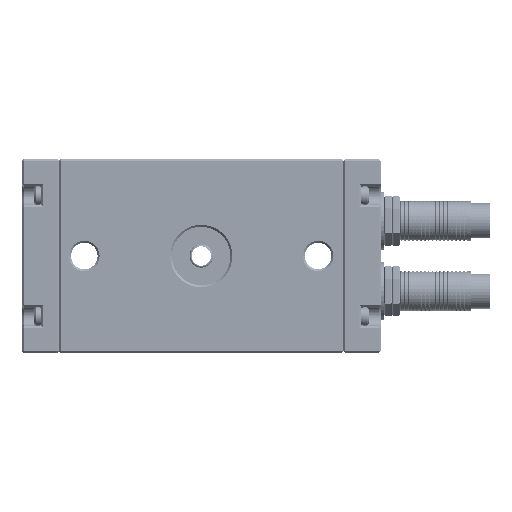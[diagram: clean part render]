
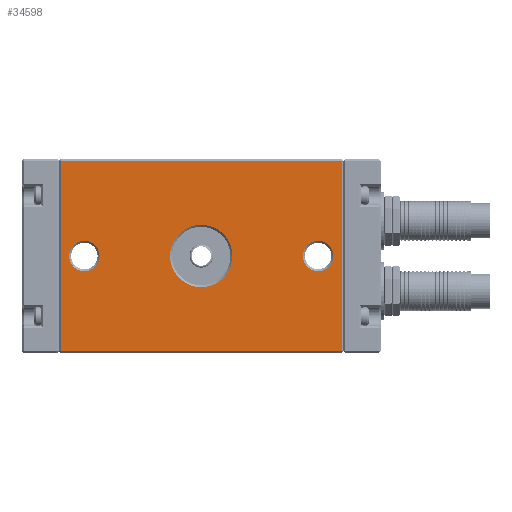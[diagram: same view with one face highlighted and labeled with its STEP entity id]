
A CAD part, front view. The second image highlights one B-rep face of the part: STEP entity #34598.
In plain terms, the highlighted planar face has unit normal (0, -1, 0) as drawn and (0, 0, -1) by its records, which use the part's own axes.
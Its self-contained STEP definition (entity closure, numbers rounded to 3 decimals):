
#31594 = EDGE_CURVE ( 'NONE', #31731, #31615, #73622, .T. ) ;
#31615 = VERTEX_POINT ( 'NONE', #73671 ) ;
#31622 = EDGE_CURVE ( 'NONE', #31640, #31641, #73670, .T. ) ;
#31640 = VERTEX_POINT ( 'NONE', #73703 ) ;
#31641 = VERTEX_POINT ( 'NONE', #73698 ) ;
#31711 = VERTEX_POINT ( 'NONE', #73815 ) ;
#31721 = EDGE_CURVE ( 'NONE', #31711, #31729, #73806, .T. ) ;
#31729 = VERTEX_POINT ( 'NONE', #73804 ) ;
#31731 = VERTEX_POINT ( 'NONE', #73793 ) ;
#34452 = ORIENTED_EDGE ( 'NONE', *, *, #34599, .T. ) ;
#34457 = ORIENTED_EDGE ( 'NONE', *, *, #31622, .T. ) ;
#34459 = EDGE_CURVE ( 'NONE', #34461, #34462, #78056, .T. ) ;
#34461 = VERTEX_POINT ( 'NONE', #78050 ) ;
#34462 = VERTEX_POINT ( 'NONE', #78049 ) ;
#34470 = EDGE_LOOP ( 'NONE', ( #34457, #34452 ) ) ;
#34475 = EDGE_CURVE ( 'NONE', #31729, #31711, #78045, .T. ) ;
#34476 = EDGE_LOOP ( 'NONE', ( #34607, #34602 ) ) ;
#34491 = VERTEX_POINT ( 'NONE', #78075 ) ;
#34494 = ORIENTED_EDGE ( 'NONE', *, *, #34475, .T. ) ;
#34518 = EDGE_LOOP ( 'NONE', ( #34600, #34494 ) ) ;
#34574 = EDGE_LOOP ( 'NONE', ( #34577, #34580, #34588, #34591 ) ) ;
#34577 = ORIENTED_EDGE ( 'NONE', *, *, #34459, .T. ) ;
#34580 = ORIENTED_EDGE ( 'NONE', *, *, #34581, .T. ) ;
#34581 = EDGE_CURVE ( 'NONE', #34462, #34491, #78204, .T. ) ;
#34586 = EDGE_CURVE ( 'NONE', #34491, #34609, #78200, .T. ) ;
#34588 = ORIENTED_EDGE ( 'NONE', *, *, #34586, .T. ) ;
#34590 = EDGE_CURVE ( 'NONE', #34609, #34461, #78199, .T. ) ;
#34591 = ORIENTED_EDGE ( 'NONE', *, *, #34590, .T. ) ;
#34598 = ADVANCED_FACE ( 'NONE', ( #78194, #78189, #78188, #78208 ), #78195, .T. ) ;
#34599 = EDGE_CURVE ( 'NONE', #31641, #31640, #78238, .T. ) ;
#34600 = ORIENTED_EDGE ( 'NONE', *, *, #31721, .T. ) ;
#34602 = ORIENTED_EDGE ( 'NONE', *, *, #34603, .T. ) ;
#34603 = EDGE_CURVE ( 'NONE', #31615, #31731, #78183, .T. ) ;
#34607 = ORIENTED_EDGE ( 'NONE', *, *, #31594, .T. ) ;
#34609 = VERTEX_POINT ( 'NONE', #78180 ) ;
#72598 = DIRECTION ( 'NONE',  ( 0., 0., 1. ) ) ;
#72617 = DIRECTION ( 'NONE',  ( -1., 0., 0. ) ) ;
#73622 = CIRCLE ( 'NONE', #73625, 3.9 ) ;
#73625 = AXIS2_PLACEMENT_3D ( 'NONE', #73640, #72598, #72617 ) ;
#73640 = CARTESIAN_POINT ( 'NONE',  ( 66.5, 25., 0. ) ) ;
#73670 = CIRCLE ( 'NONE', #73725, 8. ) ;
#73671 = CARTESIAN_POINT ( 'NONE',  ( 70.4, 25., 0. ) ) ;
#73698 = CARTESIAN_POINT ( 'NONE',  ( 44.5, 25., 0. ) ) ;
#73703 = CARTESIAN_POINT ( 'NONE',  ( 28.5, 25., 0. ) ) ;
#73722 = DIRECTION ( 'NONE',  ( -1., 0., 0. ) ) ;
#73723 = DIRECTION ( 'NONE',  ( 0., 0., 1. ) ) ;
#73724 = CARTESIAN_POINT ( 'NONE',  ( 36.5, 25., 0. ) ) ;
#73725 = AXIS2_PLACEMENT_3D ( 'NONE', #73724, #73723, #73722 ) ;
#73793 = CARTESIAN_POINT ( 'NONE',  ( 62.6, 25., 0. ) ) ;
#73800 = DIRECTION ( 'NONE',  ( -1., 0., 0. ) ) ;
#73801 = DIRECTION ( 'NONE',  ( 0., 0., 1. ) ) ;
#73802 = CARTESIAN_POINT ( 'NONE',  ( 6.5, 25., 0. ) ) ;
#73803 = AXIS2_PLACEMENT_3D ( 'NONE', #73802, #73801, #73800 ) ;
#73804 = CARTESIAN_POINT ( 'NONE',  ( 10.4, 25., 0. ) ) ;
#73806 = CIRCLE ( 'NONE', #73803, 3.9 ) ;
#73815 = CARTESIAN_POINT ( 'NONE',  ( 2.6, 25., 0. ) ) ;
#78041 = AXIS2_PLACEMENT_3D ( 'NONE', #78082, #78081, #78080 ) ;
#78045 = CIRCLE ( 'NONE', #78041, 3.9 ) ;
#78049 = CARTESIAN_POINT ( 'NONE',  ( 0.5, 0.5, 0. ) ) ;
#78050 = CARTESIAN_POINT ( 'NONE',  ( 72.5, 0.5, 0. ) ) ;
#78055 = CARTESIAN_POINT ( 'NONE',  ( 0., 0.5, 0. ) ) ;
#78056 = LINE ( 'NONE', #78055, #78062 ) ;
#78061 = DIRECTION ( 'NONE',  ( -1., 0., 0. ) ) ;
#78062 = VECTOR ( 'NONE', #78061, 1000. ) ;
#78075 = CARTESIAN_POINT ( 'NONE',  ( 0.5, 49.5, 0. ) ) ;
#78080 = DIRECTION ( 'NONE',  ( -1., 0., 0. ) ) ;
#78081 = DIRECTION ( 'NONE',  ( 0., 0., 1. ) ) ;
#78082 = CARTESIAN_POINT ( 'NONE',  ( 6.5, 25., 0. ) ) ;
#78179 = DIRECTION ( 'NONE',  ( 0., 0., -1. ) ) ;
#78180 = CARTESIAN_POINT ( 'NONE',  ( 72.5, 49.5, 0. ) ) ;
#78183 = CIRCLE ( 'NONE', #78239, 3.9 ) ;
#78185 = CARTESIAN_POINT ( 'NONE',  ( 0., 50., 0. ) ) ;
#78188 = FACE_BOUND ( 'NONE', #34470, .T. ) ;
#78189 = FACE_BOUND ( 'NONE', #34476, .T. ) ;
#78190 = DIRECTION ( 'NONE',  ( -1., 0., 0. ) ) ;
#78191 = DIRECTION ( 'NONE',  ( 0., -1., 0. ) ) ;
#78192 = VECTOR ( 'NONE', #78191, 1000. ) ;
#78193 = CARTESIAN_POINT ( 'NONE',  ( 72.5, 0., 0. ) ) ;
#78194 = FACE_BOUND ( 'NONE', #34518, .T. ) ;
#78195 = PLANE ( 'NONE',  #78207 ) ;
#78196 = DIRECTION ( 'NONE',  ( 1., 0., 0. ) ) ;
#78197 = VECTOR ( 'NONE', #78196, 1000. ) ;
#78198 = CARTESIAN_POINT ( 'NONE',  ( 73., 49.5, 0. ) ) ;
#78199 = LINE ( 'NONE', #78193, #78192 ) ;
#78200 = LINE ( 'NONE', #78198, #78197 ) ;
#78201 = DIRECTION ( 'NONE',  ( 0., 1., 0. ) ) ;
#78202 = VECTOR ( 'NONE', #78201, 1000. ) ;
#78203 = CARTESIAN_POINT ( 'NONE',  ( 0.5, 50., 0. ) ) ;
#78204 = LINE ( 'NONE', #78203, #78202 ) ;
#78207 = AXIS2_PLACEMENT_3D ( 'NONE', #78185, #78179, #78190 ) ;
#78208 = FACE_OUTER_BOUND ( 'NONE', #34574, .T. ) ;
#78229 = DIRECTION ( 'NONE',  ( -1., 0., 0. ) ) ;
#78230 = DIRECTION ( 'NONE',  ( 0., 0., 1. ) ) ;
#78231 = CARTESIAN_POINT ( 'NONE',  ( 66.5, 25., 0. ) ) ;
#78233 = DIRECTION ( 'NONE',  ( -1., 0., 0. ) ) ;
#78234 = DIRECTION ( 'NONE',  ( 0., 0., 1. ) ) ;
#78235 = CARTESIAN_POINT ( 'NONE',  ( 36.5, 25., 0. ) ) ;
#78236 = AXIS2_PLACEMENT_3D ( 'NONE', #78235, #78234, #78233 ) ;
#78238 = CIRCLE ( 'NONE', #78236, 8. ) ;
#78239 = AXIS2_PLACEMENT_3D ( 'NONE', #78231, #78230, #78229 ) ;
